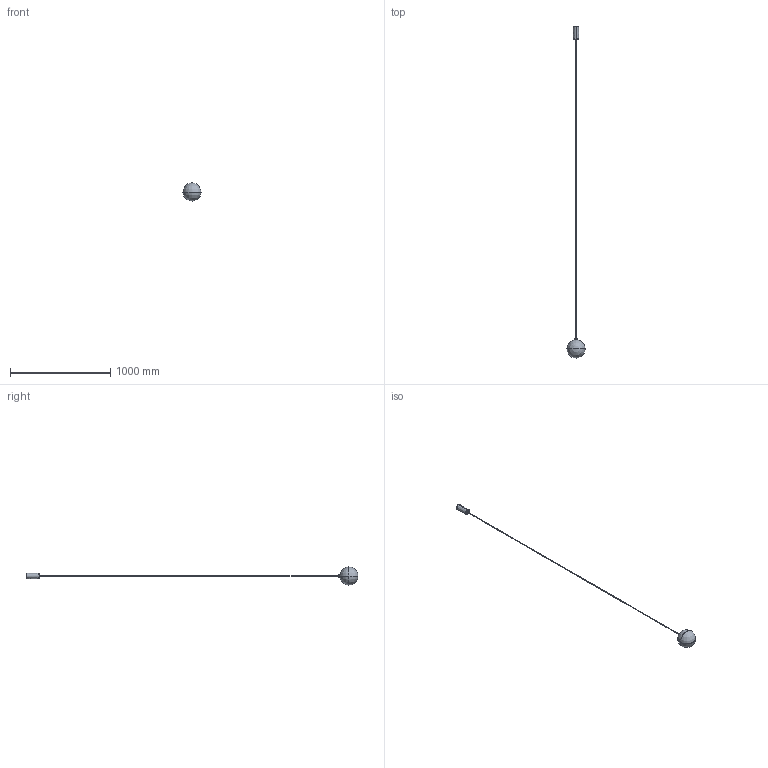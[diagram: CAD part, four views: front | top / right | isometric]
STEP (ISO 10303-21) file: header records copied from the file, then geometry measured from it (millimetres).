
FILE_DESCRIPTION(/* description */ (''),/* implementation_level */ '2;1');
FILE_NAME(/* name */ 'L115__~3',/* time_stamp */ '2024-07-02T17:54:51+02:00',/* author */ (''),/* organization */ (''),/* preprocessor_version */ 'ST-DEVELOPER v16.5',/* originating_system */ '',/* authorisation */ '');
FILE_SCHEMA (('AUTOMOTIVE_DESIGN'));
Products named in the file (1): Document
Bounding box: 180 x 3304.36 x 180 mm (x, y, z)
Volume: 416599.1 mm3; surface area: 399027.2 mm2
Topology: 26 solids, 29 shells, 1704 faces, 4545 edges, 2910 vertices
Faces by surface type: bspline 941, plane 763
Entity records: 97574 total; most frequent: CARTESIAN_POINT 69665, ORIENTED_EDGE 8881, EDGE_CURVE 4518, B_SPLINE_CURVE_WITH_KNOTS 3488, VERTEX_POINT 2910, EDGE_LOOP 1863, ADVANCED_FACE 1704, FACE_OUTER_BOUND 1704
